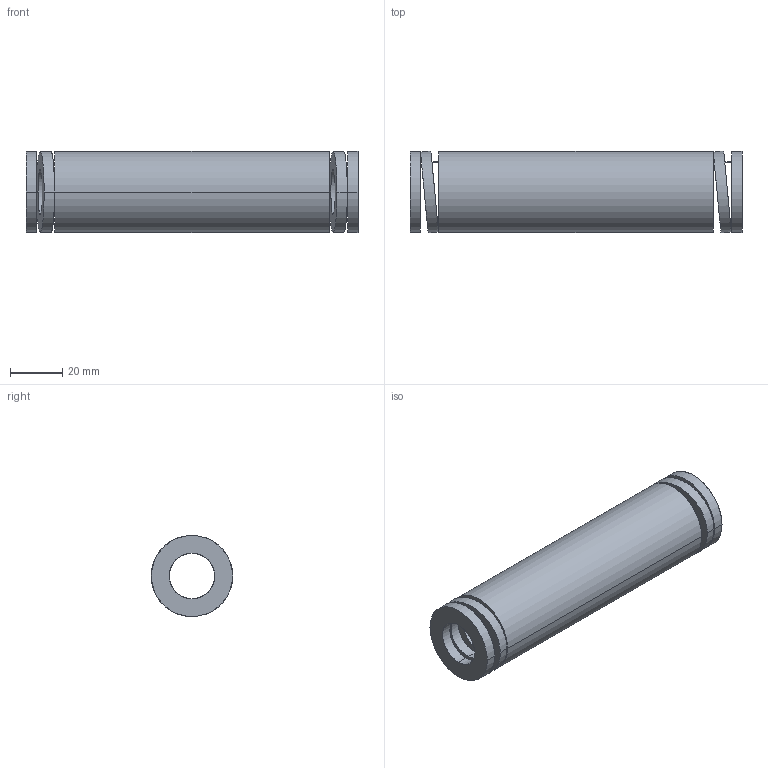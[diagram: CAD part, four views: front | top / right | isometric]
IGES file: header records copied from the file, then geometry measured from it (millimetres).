
Start section: START RECORD GO HERE.
Global section: file name: 392-B32-127.igs; native system: DASSAULT SYSTEMES CATIA V5 R20 - www.3ds.com; preprocessor: CATIA Version 5 Release 20 ; author: Utente; organization: NB04-ASUS; date: 20210813.105319; units: millimetre
Bounding box: 127 x 31.24 x 31 mm (x, y, z)
Surface area: 23569.5 mm2 (no closed solid volume)
Topology: 0 solids, 0 shells, 38 faces, 184 edges, 184 vertices
Faces by surface type: revolution 28, plane 10
